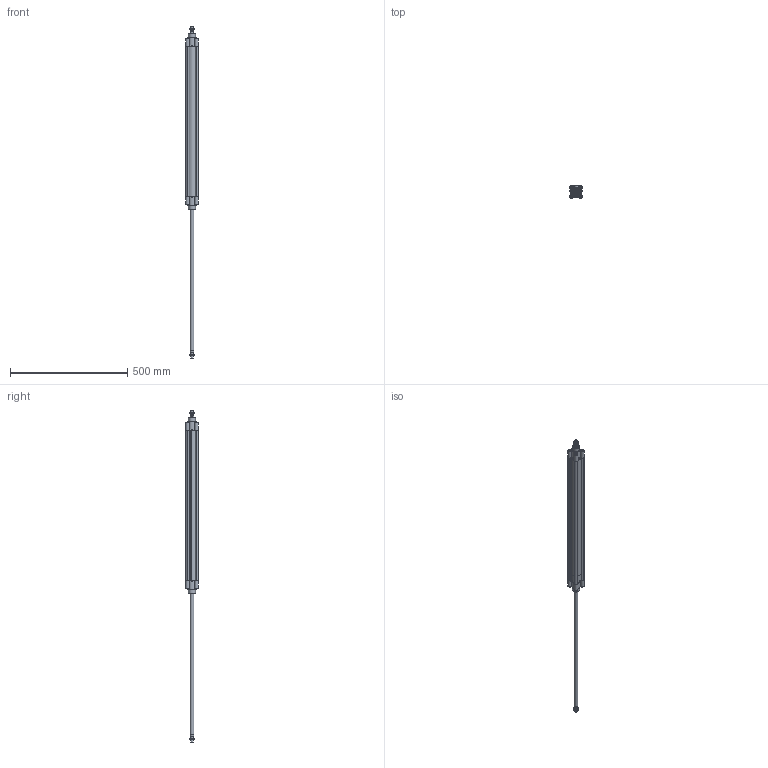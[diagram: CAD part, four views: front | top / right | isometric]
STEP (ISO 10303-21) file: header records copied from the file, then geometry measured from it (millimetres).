
FILE_DESCRIPTION((''),'2;1');
FILE_NAME('I:\Area Tecnica\Disegni\VARIE-3D\Componenti\ECOLIGHT\02\stp\139#_40_0600_02.iam.stp','2012-01-28T09:39:25',(''),(''),'Autodesk Inventor 2012','Autodesk Inventor 2012','');
FILE_SCHEMA(('AUTOMOTIVE_DESIGN { 1 0 10303 214 1 1 1 1 }'));
Length unit declared in the file: millimetre
Products named in the file (5): 139#_40_0600_02; CPL040_004-600; CPL040-001-01; CPL_40SP_0600; 1320_40_18F
Assembly tree (6 placements, depth 2):
  139#_40_0600_02
    CPL040_004-600
    CPL040-001-01  x2
    CPL_40SP_0600
    1320_40_18F  x2
Bounding box: 54 x 54 x 1413 mm (x, y, z)
Volume: 876210.7 mm3; surface area: 457399.6 mm2
Topology: 6 solids, 6 shells, 351 faces, 860 edges, 564 vertices
Faces by surface type: plane 211, cylinder 98, cone 40, torus 2
Full cylindrical faces by diameter (mm): 5 x8, 5.5 x4, 8 x2, 10 x8, 10.5 x10, 10.8 x2, 11.6 x2, 12 x2, 15.5 x2, 16 x4, 30 x2, 35 x2, 40 x4
Entity records: 7104 total; most frequent: CARTESIAN_POINT 1295, DIRECTION 1162, ORIENTED_EDGE 1084, EDGE_CURVE 542, AXIS2_PLACEMENT_3D 413, VERTEX_POINT 380, VECTOR 336, LINE 336
